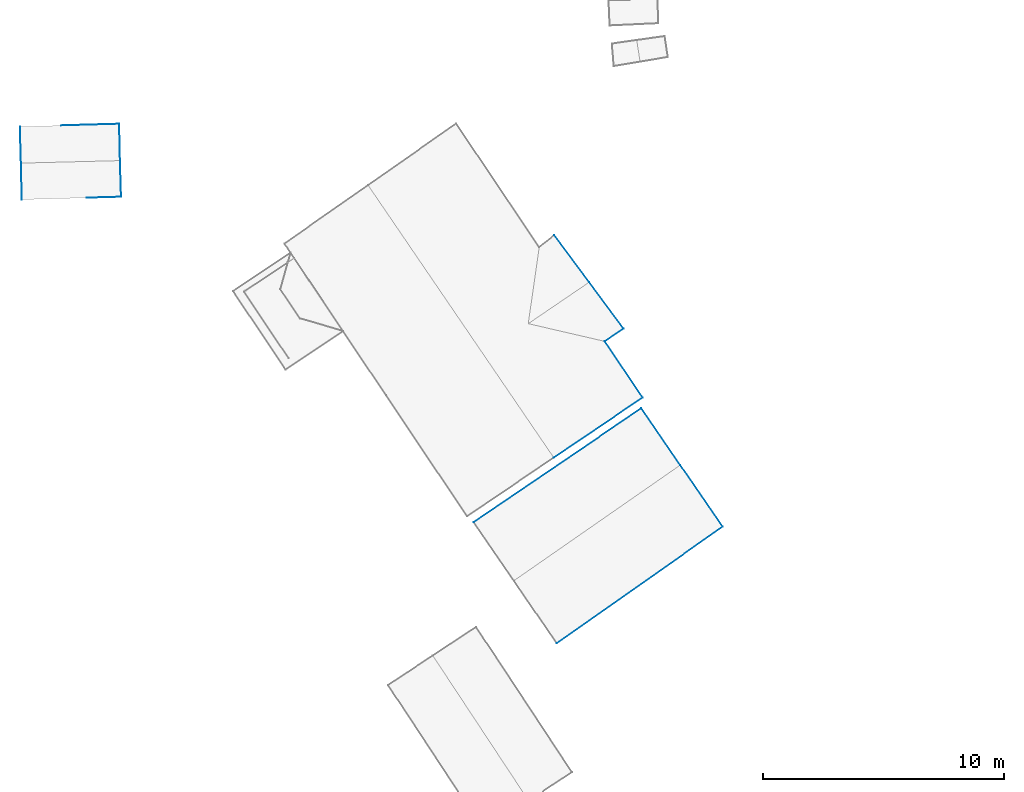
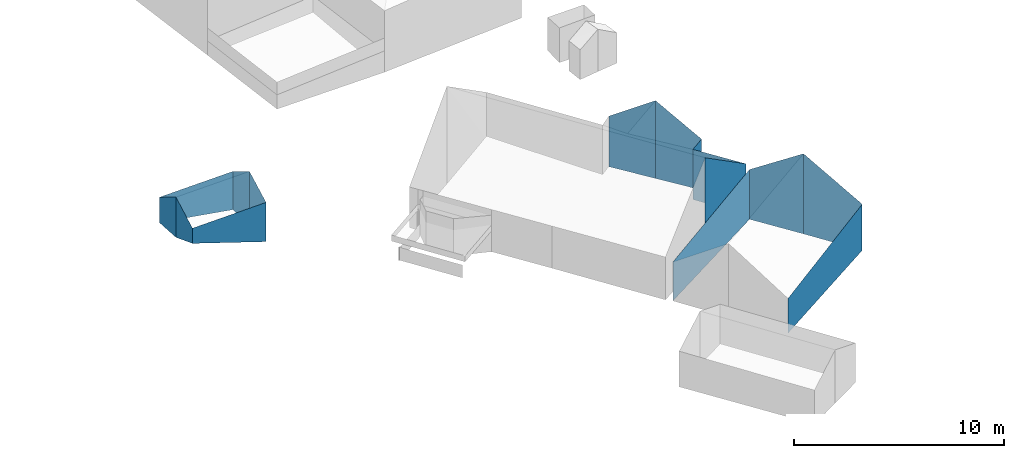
# Not in any storey, part 3 of 57: 15 walls.
"""IFC2X3 building model written with IfcOpenShell, lengths in metres."""

from ifc_helpers import new_model, entity, si_unit, converted_unit, origin, place, context, subcontext, project, spatial, face_set, surface_model, element, save


model = new_model("IFC2X3")

# Units and contexts
model_context = context("Model", 3, precision=1e-05, world=origin())
body_context = subcontext(model_context, "Body", "Model", "MODEL_VIEW")
ifc_project = project(units=[converted_unit("PLANEANGLEUNIT", "DEGREE", entity("IfcRatioMeasure", 0.0174532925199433), si_unit("PLANEANGLEUNIT", "RADIAN"), dimensions=[0, 0, 0, 0, 0, 0, 0]), si_unit("AREAUNIT", "SQUARE_METRE"), si_unit("LENGTHUNIT", "METRE")], contexts=[model_context])

# Site, building
site_placement = place(None, origin())
site = spatial("IfcSite", under=ifc_project, at=site_placement, Name="_site", CompositionType="ELEMENT")
building_1_placement = place(site_placement, origin())
building_1 = spatial("IfcBuilding", under=site, at=building_1_placement, Name="_building", CompositionType="ELEMENT")

# Walls
wall_1_placement = place(building_1_placement, origin())
element("IfcWall", 1, at=wall_1_placement, inside=building_1, Name="Wall", context=body_context, shape_type="SurfaceModel", body=[
    surface_model("IfcFaceBasedSurfaceModel", [(80.523, 89.644, 114.25), (80.557, 88.122, 115.16), (80.557, 88.122, 112.0), (80.523, 89.644, 112.017)], [face_set([[[0, 1, 2, 3]]])]),
])
wall_2_placement = place(building_1_placement, origin())
element("IfcWall", 2, at=wall_2_placement, inside=building_1, Name="Wall", context=body_context, shape_type="SurfaceModel", body=[
    surface_model("IfcFaceBasedSurfaceModel", [(76.408, 89.53, 114.25), (80.523, 89.644, 114.25), (80.523, 89.644, 112.017), (76.408, 89.53, 112.778)], [face_set([[[0, 1, 2, 3]]])]),
])
wall_3_placement = place(building_1_placement, origin())
element("IfcWall", 3, at=wall_3_placement, inside=building_1, Name="Wall", context=body_context, shape_type="SurfaceModel", body=[
    surface_model("IfcFaceBasedSurfaceModel", [(76.452, 88.018, 115.16), (76.408, 89.53, 114.25), (76.408, 89.53, 112.778), (76.452, 88.018, 112.816)], [face_set([[[0, 1, 2, 3]]])]),
])
wall_4_placement = place(building_1_placement, origin())
element("IfcWall", 4, at=wall_4_placement, inside=building_1, Name="Wall", context=body_context, shape_type="SurfaceModel", body=[
    surface_model("IfcFaceBasedSurfaceModel", [(76.487, 86.506, 114.25), (76.452, 88.018, 115.16), (76.452, 88.018, 112.816), (76.487, 86.506, 113.37)], [face_set([[[0, 1, 2, 3]]])]),
])
wall_5_placement = place(building_1_placement, origin())
element("IfcWall", 5, at=wall_5_placement, inside=building_1, Name="Wall", context=body_context, shape_type="SurfaceModel", body=[
    surface_model("IfcFaceBasedSurfaceModel", [(80.602, 86.62, 114.25), (76.487, 86.506, 114.25), (76.487, 86.506, 113.37), (80.602, 86.62, 111.963)], [face_set([[[0, 1, 2, 3]]])]),
])
wall_6_placement = place(building_1_placement, origin())
element("IfcWall", 6, at=wall_6_placement, inside=building_1, Name="Wall", context=body_context, shape_type="SurfaceModel", body=[
    surface_model("IfcFaceBasedSurfaceModel", [(80.557, 88.122, 115.16), (80.602, 86.62, 114.25), (80.602, 86.62, 111.963), (80.557, 88.122, 112.0)], [face_set([[[0, 1, 2, 3]]])]),
])

# Building
building_2_placement = place(site_placement, origin())
building_2 = spatial("IfcBuilding", under=site, at=building_2_placement, Name="_building", CompositionType="ELEMENT")

# Walls
wall_7_placement = place(building_2_placement, origin())
element("IfcWall", 7, at=wall_7_placement, inside=building_2, Name="Wall", context=body_context, shape_type="SurfaceModel", body=[
    surface_model("IfcFaceBasedSurfaceModel", [(102.17, 77.85, 113.93), (103.786, 75.501, 115.71), (103.786, 75.501, 111.038), (102.17, 77.85, 111.029)], [face_set([[[0, 1, 2, 3]]])]),
])
wall_8_placement = place(building_2_placement, origin())
element("IfcWall", 8, at=wall_8_placement, inside=building_2, Name="Wall", context=body_context, shape_type="SurfaceModel", body=[
    surface_model("IfcFaceBasedSurfaceModel", [(95.225, 73.129, 113.84), (102.17, 77.85, 113.93), (102.17, 77.85, 111.029), (95.225, 73.129, 111.573)], [face_set([[[0, 1, 2, 3]]])]),
])
wall_9_placement = place(building_2_placement, origin())
element("IfcWall", 9, at=wall_9_placement, inside=building_2, Name="Wall", context=body_context, shape_type="SurfaceModel", body=[
    surface_model("IfcFaceBasedSurfaceModel", [(105.548, 72.948, 113.7), (98.67, 68.106, 113.56), (98.67, 68.106, 111.541), (105.548, 72.948, 111.015)], [face_set([[[0, 1, 2, 3]]])]),
])
wall_10_placement = place(building_2_placement, origin())
element("IfcWall", 10, at=wall_10_placement, inside=building_2, Name="Wall", context=body_context, shape_type="SurfaceModel", body=[
    surface_model("IfcFaceBasedSurfaceModel", [(103.786, 75.501, 115.71), (105.548, 72.948, 113.7), (105.548, 72.948, 111.015), (103.786, 75.501, 111.038)], [face_set([[[0, 1, 2, 3]]])]),
])

# Building
building_3_placement = place(site_placement, origin())
building_3 = spatial("IfcBuilding", under=site, at=building_3_placement, Name="_building", CompositionType="ELEMENT")

# Walls
wall_11_placement = place(building_3_placement, origin())
element("IfcWall", 11, at=wall_11_placement, inside=building_3, Name="Wall", context=body_context, shape_type="SurfaceModel", body=[
    surface_model("IfcFaceBasedSurfaceModel", [(98.566, 85.029, 113.95), (100.011, 83.083, 115.53), (100.011, 83.083, 110.99), (98.566, 85.029, 111.005)], [face_set([[[0, 1, 2, 3]]])]),
])
wall_12_placement = place(building_3_placement, origin())
element("IfcWall", 12, at=wall_12_placement, inside=building_3, Name="Wall", context=body_context, shape_type="SurfaceModel", body=[
    surface_model("IfcFaceBasedSurfaceModel", [(100.654, 80.627, 113.95), (102.231, 78.299, 113.97), (102.231, 78.299, 111.015), (100.654, 80.627, 111.032)], [face_set([[[0, 1, 2, 3]]])]),
])
wall_13_placement = place(building_3_placement, origin())
element("IfcWall", 13, at=wall_13_placement, inside=building_3, Name="Wall", context=body_context, shape_type="SurfaceModel", body=[
    surface_model("IfcFaceBasedSurfaceModel", [(102.231, 78.299, 113.97), (98.54, 75.803, 117.13), (98.54, 75.803, 111.304), (102.231, 78.299, 111.015)], [face_set([[[0, 1, 2, 3]]])]),
])
wall_14_placement = place(building_3_placement, origin())
element("IfcWall", 14, at=wall_14_placement, inside=building_3, Name="Wall", context=body_context, shape_type="SurfaceModel", body=[
    surface_model("IfcFaceBasedSurfaceModel", [(101.437, 81.159, 113.95), (100.654, 80.627, 113.95), (100.654, 80.627, 111.032), (101.437, 81.159, 110.983)], [face_set([[[0, 1, 2, 3]]])]),
])
wall_15_placement = place(building_3_placement, origin())
element("IfcWall", 15, at=wall_15_placement, inside=building_3, Name="Wall", context=body_context, shape_type="SurfaceModel", body=[
    surface_model("IfcFaceBasedSurfaceModel", [(100.011, 83.083, 115.53), (101.437, 81.159, 113.95), (101.437, 81.159, 110.983), (100.011, 83.083, 110.99)], [face_set([[[0, 1, 2, 3]]])]),
])

save(model, "model.ifc")
